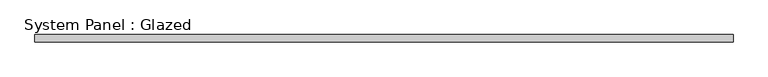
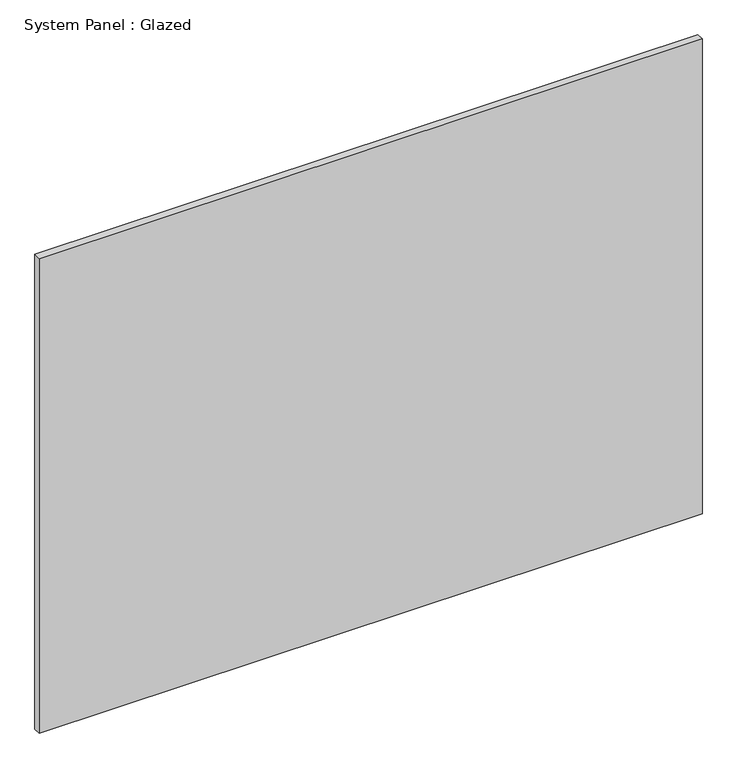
"""IFC4 building model written with IfcOpenShell, lengths in millimetres: plate geometry, System Panel : Glazed."""

from ifc_helpers import new_model, si_unit, origin, origin_with_axes, place, context, project, spatial, polyline, outline, extrude, source, transform, mapped, element, save


def system_panel_glazed_89dc3443(model_context):
    return source(origin(), model_context, "Body", "SweptSolid", [
        extrude(outline(polyline([(1187.45, -44.45), (-1187.45, -44.45), (-1187.45, -19.05), (1187.45, -19.05), (1187.45, -44.45)])), origin_with_axes(), (0.0, 0.0, 1.0), 1797.05),
    ])


if __name__ == "__main__":
    model = new_model("IFC4")
    model_context = context("Model", 3, world=origin())
    ifc_project = project(units=[si_unit("LENGTHUNIT", "METRE", prefix="MILLI")], contexts=[model_context])
    site = spatial("IfcSite", under=ifc_project)
    building = spatial("IfcBuilding", under=site)
    placement = place(None, origin())
    system_panel_glazed_shape = system_panel_glazed_89dc3443(model_context)
    element("IfcPlate", 1, ObjectType="System Panel : Glazed", at=placement, inside=building, context=model_context, shape_type="MappedRepresentation", body=[
        mapped(system_panel_glazed_shape, transform((0.0, 0.0, 0.0), x_axis=(1.0, 0.0, 0.0), y_axis=(0.0, 1.0, 0.0), z_axis=(0.0, 0.0, 1.0))),
    ])
    save(model, "model.ifc")
